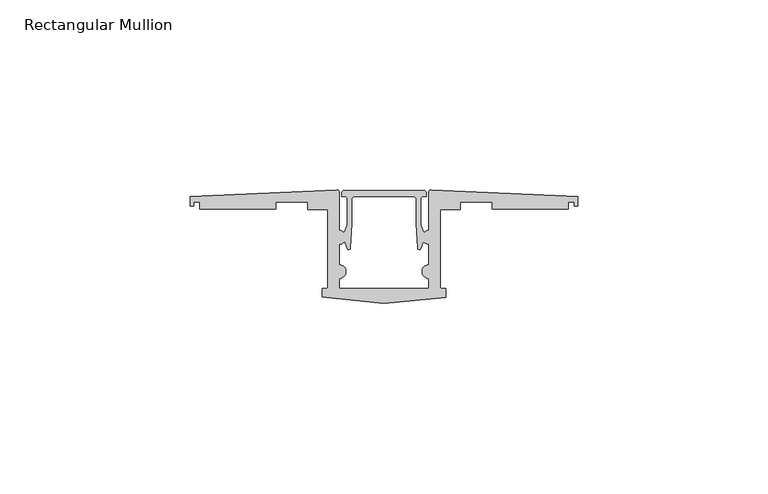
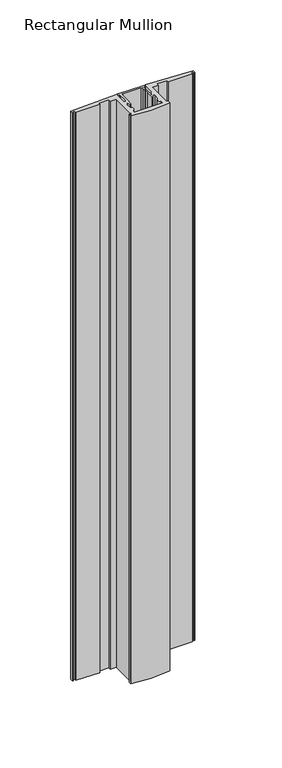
"""IFC4 building model written with IfcOpenShell, lengths in millimetres: member geometry, Rectangular Mullion : TE-H-01_03_Joint HF102."""

from ifc_helpers import new_model, si_unit, point, frame, frame_2d, origin, place, context, project, spatial, polyline, circle_curve, trimmed, segment, composite_curve, outline, extrude, source, transform, mapped, element, save


def rectangular_mullion_bb89daf4(model_context):
    return source(origin(), model_context, "Body", "SweptSolid", [
        extrude(outline(composite_curve([segment(polyline([(16.3, -20.7636928), (16.3, -23.0943093)]), True, "CONTINUOUS"), segment(trimmed(circle_curve(frame_2d((0.3778425, 55.077345)), 79.7767048), [point((16.3, -23.0943093))], [point((-16.3, -22.9365782))], False, "CARTESIAN"), True, "CONTINUOUS"), segment(polyline([(-16.3, -22.9365782), (-16.3, -20.7636928), (-15.35, -20.7636928)]), True, "CONTINUOUS"), segment(trimmed(circle_curve(frame_2d((-15.35, -20.2136928)), 0.55), [point((-15.35, -20.7636928))], [point((-14.8, -20.2136928))], True, "CARTESIAN"), True, "CONTINUOUS"), segment(polyline([(-14.8, -20.2136928), (-14.8, 0.0), (-20.0, 0.0), (-20.0, 2.0), (-28.4182257, 2.0), (-28.4182257, 0.2), (-48.4182257, 0.2), (-48.4182257, 2.0), (-50.0239552, 2.0), (-50.0239552, 1.0305469), (-51.002067, 1.0305469), (-51.002067, 3.421028), (-12.3757889, 5.2341639)]), True, "CONTINUOUS"), segment(trimmed(circle_curve(frame_2d((-12.35, 4.6847689)), 0.55), [point((-12.3757889, 5.2341639))], [point((-11.8, 4.6847689))], False, "CARTESIAN"), True, "CONTINUOUS"), segment(polyline([(-11.8, 4.6847689), (-11.8, -5.4634871)]), True, "CONTINUOUS"), segment(trimmed(circle_curve(frame_2d((-11.8, -7.2634871)), 1.8), [point((-11.8, -5.4634871))], [point((-10.4804437, -6.039244))], False, "CARTESIAN"), True, "CONTINUOUS"), segment(polyline([(-10.4804437, -6.039244), (-9.7126284, -3.8448708), (-9.7126284, 2.9982227)]), True, "CONTINUOUS"), segment(trimmed(circle_curve(frame_2d((-10.2626284, 2.9982227)), 0.55), [point((-9.7126284, 2.9982227))], [point((-10.2626284, 3.5482227))], True, "CARTESIAN"), True, "CONTINUOUS"), segment(polyline([(-10.2626284, 3.5482227), (-11.0624892, 3.5482227), (-11.0624892, 4.4982227)]), True, "CONTINUOUS"), segment(trimmed(circle_curve(frame_2d((-10.5124892, 4.4982227)), 0.55), [point((-11.0624892, 4.4982227))], [point((-10.5124892, 5.0482227))], False, "CARTESIAN"), True, "CONTINUOUS"), segment(polyline([(-10.5124892, 5.0482227), (10.5124892, 5.0482227)]), True, "CONTINUOUS"), segment(trimmed(circle_curve(frame_2d((10.5124892, 4.4982227)), 0.55), [point((10.5124892, 5.0482227))], [point((11.0624892, 4.4982227))], False, "CARTESIAN"), True, "CONTINUOUS"), segment(polyline([(11.0624892, 4.4982227), (11.0624892, 3.5482227), (10.2626284, 3.5482227)]), True, "CONTINUOUS"), segment(trimmed(circle_curve(frame_2d((10.2626284, 2.9982227)), 0.55), [point((10.2626284, 3.5482227))], [point((9.7126284, 2.9982227))], True, "CARTESIAN"), True, "CONTINUOUS"), segment(polyline([(9.7126284, 2.9982227), (9.7126284, -3.8448708), (10.4433575, -5.9332537)]), True, "CONTINUOUS"), segment(trimmed(circle_curve(frame_2d((11.8, -7.2634871)), 1.9), [point((10.4433575, -5.9332537))], [point((10.3404276, -8.4798952))], True, "CARTESIAN"), True, "CONTINUOUS"), segment(polyline([(10.3404276, -8.4798952), (9.6235002, -10.2360599)]), True, "CONTINUOUS"), segment(trimmed(circle_curve(frame_2d((9.2715591, -10.0931911)), 0.3798342), [point((9.6235002, -10.2360599))], [point((8.8921936, -10.1120555))], False, "CARTESIAN"), True, "CONTINUOUS"), segment(polyline([(8.8921936, -10.1120555), (8.5126282, -3.7696514), (8.5126282, 2.5482227)]), True, "CONTINUOUS"), segment(trimmed(circle_curve(frame_2d((7.5126282, 2.5482227)), 1.0), [point((8.5126282, 2.5482227))], [point((7.5126282, 3.5482227))], True, "CARTESIAN"), True, "CONTINUOUS"), segment(polyline([(7.5126282, 3.5482227), (-7.5126282, 3.5482227)]), True, "CONTINUOUS"), segment(trimmed(circle_curve(frame_2d((-7.5126282, 2.5482227)), 1.0), [point((-7.5126282, 3.5482227))], [point((-8.5126282, 2.5482227))], True, "CARTESIAN"), True, "CONTINUOUS"), segment(polyline([(-8.5126282, 2.5482227), (-8.5126282, -3.7696514), (-8.8921936, -10.1120555)]), True, "CONTINUOUS"), segment(trimmed(circle_curve(frame_2d((-9.2715591, -10.0931911)), 0.3798342), [point((-8.8921936, -10.1120555))], [point((-9.6235001, -10.23606))], False, "CARTESIAN"), True, "CONTINUOUS"), segment(polyline([(-9.6235001, -10.23606), (-10.3835688, -8.3742178)]), True, "CONTINUOUS"), segment(trimmed(circle_curve(frame_2d((-11.8, -7.2634871)), 1.8), [point((-10.3835688, -8.3742178))], [point((-11.8, -9.0634871))], False, "CARTESIAN"), True, "CONTINUOUS"), segment(polyline([(-11.8, -9.0634871), (-11.8, -14.4634871)]), True, "CONTINUOUS"), segment(trimmed(circle_curve(frame_2d((-11.8, -16.2634871)), 1.8), [point((-11.8, -14.4634871))], [point((-11.8, -18.0634871))], False, "CARTESIAN"), True, "CONTINUOUS"), segment(polyline([(-11.8, -18.0634871), (-11.8, -20.7636928), (11.8, -20.7636928), (11.8, -18.0634871)]), True, "CONTINUOUS"), segment(trimmed(circle_curve(frame_2d((11.8, -16.2634871)), 1.8), [point((11.8, -18.0634871))], [point((11.8, -14.4634871))], False, "CARTESIAN"), True, "CONTINUOUS"), segment(polyline([(11.8, -14.4634871), (11.8, -9.0634871)]), True, "CONTINUOUS"), segment(trimmed(circle_curve(frame_2d((11.8, -7.2634871)), 1.8), [point((11.8, -9.0634871))], [point((11.8, -5.4634871))], False, "CARTESIAN"), True, "CONTINUOUS"), segment(polyline([(11.8, -5.4634871), (11.8, 4.6847689)]), True, "CONTINUOUS"), segment(trimmed(circle_curve(frame_2d((12.35, 4.6847689)), 0.55), [point((11.8, 4.6847689))], [point((12.3757889, 5.2341639))], False, "CARTESIAN"), True, "CONTINUOUS"), segment(polyline([(12.3757889, 5.2341639), (51.002067, 3.421028), (51.002067, 1.0305469), (50.0239552, 1.0305469), (50.0239552, 2.0), (48.4182257, 2.0), (48.4182257, 0.2), (28.4182257, 0.2), (28.4182257, 2.0), (20.0, 2.0), (20.0, 0.0), (14.8, 0.0), (14.8, -20.2136928)]), True, "CONTINUOUS"), segment(trimmed(circle_curve(frame_2d((15.35, -20.2136928)), 0.55), [point((14.8, -20.2136928))], [point((15.35, -20.7636928))], True, "CARTESIAN"), True, "CONTINUOUS"), segment(polyline([(15.35, -20.7636928), (16.3, -20.7636928)]), True, "CONTINUOUS")], self_intersect=False)), frame((0.0, 0.0, -500.0), z_axis=(0.0, 0.0, 1.0), x_axis=(1.0, 0.0, 0.0)), (0.0, 0.0, 1.0), 500.0),
    ])


if __name__ == "__main__":
    model = new_model("IFC4")
    model_context = context("Model", 3, world=origin())
    ifc_project = project(units=[si_unit("LENGTHUNIT", "METRE", prefix="MILLI")], contexts=[model_context])
    site = spatial("IfcSite", under=ifc_project)
    building = spatial("IfcBuilding", under=site)
    placement = place(None, origin())
    rectangular_mullion_shape = rectangular_mullion_bb89daf4(model_context)
    element("IfcMember", 1, ObjectType="Rectangular Mullion : TE-H-01_03_Joint HF102", at=placement, inside=building, context=model_context, shape_type="MappedRepresentation", body=[
        mapped(rectangular_mullion_shape, transform((0.0, 0.0, 0.0), x_axis=(1.0, 0.0, 0.0), y_axis=(0.0, 1.0, 0.0), z_axis=(0.0, 0.0, 1.0))),
    ])
    save(model, "model.ifc")
